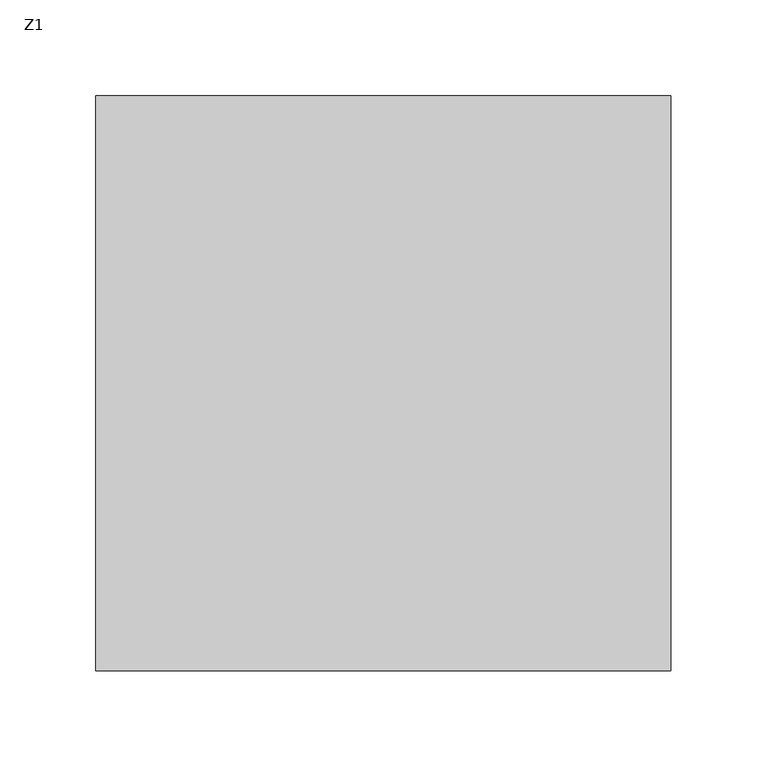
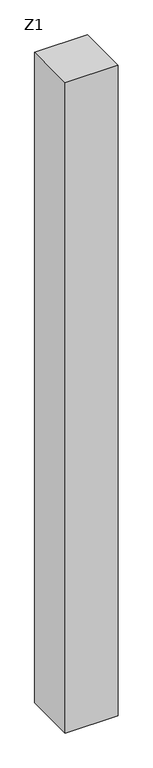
"""IFC4 building model written with IfcOpenShell, lengths in millimetres: column geometry, 混凝土 - 矩形 - 柱 : Z1."""

import ifcopenshell
import ifcopenshell.guid

model = None  # the IFC model being written
_history = None  # IfcOwnerHistory: only IFC2X3 demands one
_inside = {}  # id of a spatial element -> (the spatial element, [elements in it])
_under = {}  # id of a project, library or spatial element -> (it, [spatial elements below it])
_declared = {}  # id of a project -> (the project, [libraries it declares])
_typed = {}  # id of a type object -> (the type object, [elements of that type])
_made_of = {}  # id of a material, layer set ... -> (it, [elements and type objects made of it])


def new_model(schema):
    """Start an empty IFC model of exactly this schema.

    Asked for "IFC4X3", IfcOpenShell would pick the latest addendum, in which some entities
    have other attributes; the version numbers below select the first issue.
    IFC2X3 requires an IfcOwnerHistory on every rooted entity: one is made here for all.
    """
    global model, _history
    if schema == "IFC4X3":
        model = ifcopenshell.file(schema_version=(4, 3, 0, 0))
    else:
        model = ifcopenshell.file(schema=schema)
    _inside.clear()
    _under.clear()
    _declared.clear()
    _typed.clear()
    _made_of.clear()
    _history = None
    if model.schema == "IFC2X3":
        org = make("IfcOrganization", Name="unknown")
        user = make(
            "IfcPersonAndOrganization",
            ThePerson=make("IfcPerson", FamilyName="unknown"),
            TheOrganization=org,
        )
        app = make(
            "IfcApplication",
            ApplicationDeveloper=org,
            Version="unknown",
            ApplicationFullName="unknown",
            ApplicationIdentifier="unknown",
        )
        _history = make(
            "IfcOwnerHistory",
            OwningUser=user,
            OwningApplication=app,
            ChangeAction="ADDED",
            CreationDate=0,
        )
    return model


def make(cls, **values):
    """One entity of the class cls with the attributes given. An attribute that is None is left unset."""
    return model.create_entity(
        cls, **{name: value for name, value in values.items() if value is not None}
    )


def rooted(cls, **values):
    """An entity with a GlobalId (a new one), such as an element, a storey or a relation."""
    return make(cls, GlobalId=ifcopenshell.guid.new(), OwnerHistory=_history, **values)


def si_unit(unit_type, name, prefix=None):
    """IfcSIUnit, for example si_unit("LENGTHUNIT", "METRE", prefix="MILLI")."""
    return make("IfcSIUnit", UnitType=unit_type, Prefix=prefix, Name=name)


def assignment(units):
    """IfcUnitAssignment: the units of a project."""
    return None if units is None else make("IfcUnitAssignment", Units=units)


def point(xyz):
    """IfcCartesianPoint."""
    return None if xyz is None else make("IfcCartesianPoint", Coordinates=xyz)


def direction(xyz):
    """IfcDirection."""
    return None if xyz is None else make("IfcDirection", DirectionRatios=xyz)


def frame(location, z_axis=None, x_axis=None):
    """IfcAxis2Placement3D, a coordinate frame: its origin and axes. An axis left out is left unset."""
    return make(
        "IfcAxis2Placement3D",
        Location=point(location),
        Axis=direction(z_axis),
        RefDirection=direction(x_axis),
    )


def origin():
    """The frame at (0, 0, 0) with its axes left unset."""
    return frame((0.0, 0.0, 0.0))


def origin_with_axes():
    """The frame at (0, 0, 0) with the z axis (0, 0, 1) and the x axis (1, 0, 0) written out."""
    return frame((0.0, 0.0, 0.0), z_axis=(0.0, 0.0, 1.0), x_axis=(1.0, 0.0, 0.0))


def place(relative_to, where):
    """IfcLocalPlacement: puts the frame where relative to a parent placement (None: the world)."""
    return make(
        "IfcLocalPlacement", PlacementRelTo=relative_to, RelativePlacement=where
    )


def context(
    kind, dimensions, precision=None, world=None, true_north=None, identifier=None
):
    """IfcGeometricRepresentationContext, for example the 3D "Model" context."""
    return make(
        "IfcGeometricRepresentationContext",
        ContextIdentifier=identifier,
        ContextType=kind,
        CoordinateSpaceDimension=dimensions,
        Precision=precision,
        WorldCoordinateSystem=world,
        TrueNorth=true_north,
    )


def project(units=None, contexts=None):
    """IfcProject with its units and contexts."""
    return rooted(
        "IfcProject",
        Name="project",
        RepresentationContexts=contexts,
        UnitsInContext=assignment(units),
    )


def spatial(cls, under=None, at=None, **own):
    """A site, building, storey or space (cls), placed at a placement, below another one or the project."""
    s = rooted(cls, ObjectPlacement=at, **own)
    if under is not None:
        _under.setdefault(under.id(), (under, []))[1].append(s)
    return s


def polyline(points):
    """IfcPolyline through the points."""
    return make("IfcPolyline", Points=[point(p) for p in points])


def outline(outer, holes=None, kind="AREA"):
    """IfcArbitraryClosedProfileDef: a profile drawn as a closed curve; with holes, ...WithVoids."""
    if holes is None:
        return make("IfcArbitraryClosedProfileDef", ProfileType=kind, OuterCurve=outer)
    return make(
        "IfcArbitraryProfileDefWithVoids",
        ProfileType=kind,
        OuterCurve=outer,
        InnerCurves=holes,
    )


def extrude(swept, where, along, depth):
    """IfcExtrudedAreaSolid: the profile swept, set in the frame where, extruded along a direction by depth."""
    return make(
        "IfcExtrudedAreaSolid",
        SweptArea=swept,
        Position=where,
        ExtrudedDirection=direction(along),
        Depth=depth,
    )


def shape(context_of_items, identifier, shape_type, items):
    """IfcShapeRepresentation: the items that make up one representation, for example the "Body"."""
    return make(
        "IfcShapeRepresentation",
        ContextOfItems=context_of_items,
        RepresentationIdentifier=identifier,
        RepresentationType=shape_type,
        Items=items,
    )


def source(mapping_origin, context_of_items, identifier, shape_type, items):
    """IfcRepresentationMap: a shape defined once, which mapped items show again and again."""
    return make(
        "IfcRepresentationMap",
        MappingOrigin=mapping_origin,
        MappedRepresentation=shape(context_of_items, identifier, shape_type, items),
    )


def transform(
    local_origin,
    x_axis=None,
    y_axis=None,
    z_axis=None,
    scale=None,
    scale2=None,
    scale3=None,
    uniform=True,
):
    """IfcCartesianTransformationOperator3D, or its non-uniform kind. x_axis, y_axis, z_axis: its Axis1, 2, 3."""
    if uniform:
        return make(
            "IfcCartesianTransformationOperator3D",
            Axis1=direction(x_axis),
            Axis2=direction(y_axis),
            LocalOrigin=point(local_origin),
            Scale=scale,
            Axis3=direction(z_axis),
        )
    return make(
        "IfcCartesianTransformationOperator3DnonUniform",
        Axis1=direction(x_axis),
        Axis2=direction(y_axis),
        LocalOrigin=point(local_origin),
        Scale=scale,
        Axis3=direction(z_axis),
        Scale2=scale2,
        Scale3=scale3,
    )


def mapped(mapping_source, mapping_target):
    """IfcMappedItem: shows the shape of a source again, moved by a transform."""
    return make(
        "IfcMappedItem", MappingSource=mapping_source, MappingTarget=mapping_target
    )


def made_of(thing, what):
    """Note that an element or type object is made of a material, layer set ...; save() writes the relation."""
    if what is not None:
        _made_of.setdefault(what.id(), (what, []))[1].append(thing)
    return thing


def element(
    cls,
    number,
    at=None,
    inside=None,
    cuts=None,
    type_object=None,
    material=None,
    context=None,
    identifier="Body",
    shape_type=None,
    held_by="IfcProductDefinitionShape",
    body=None,
    shapes=None,
    **own,
):
    """One element of the class cls, such as IfcWall. Its Tag is "e" and its number.

    at: its placement. inside: the storey or other place that contains it. cuts: it is an
    opening in that element (IfcRelVoidsElement). A single representation is given by context,
    identifier, shape_type and body (its items); several are given by shapes. held_by: the class
    of the entity that holds the representations. save() writes the other relations.
    """
    e = rooted(cls, Tag="e%d" % number, ObjectPlacement=at, **own)
    if body is not None:
        shapes = [shape(context, identifier, shape_type, body)]
    if shapes is not None:
        e.Representation = make(held_by, Representations=shapes)
    if inside is not None:
        _inside.setdefault(inside.id(), (inside, []))[1].append(e)
    if cuts is not None:
        rooted(
            "IfcRelVoidsElement", RelatingBuildingElement=cuts, RelatedOpeningElement=e
        )
    if type_object is not None:
        _typed.setdefault(type_object.id(), (type_object, []))[1].append(e)
    return made_of(e, material)


def aggregate(whole, parts):
    """IfcRelAggregates: a whole, such as a stair, and the parts it consists of."""
    return rooted("IfcRelAggregates", RelatingObject=whole, RelatedObjects=parts)


def save(model, path):
    """Write the relations noted so far, then the file.

    IfcRelAggregates (storeys below a building ...), IfcRelContainedInSpatialStructure (elements
    in a storey), IfcRelDefinesByType, IfcRelAssociatesMaterial and IfcRelDeclares: one each for
    every whole, place, type object, material and project.
    """
    for whole, parts in _under.values():
        aggregate(whole, parts)
    for where, things in _inside.values():
        rooted(
            "IfcRelContainedInSpatialStructure",
            RelatedElements=things,
            RelatingStructure=where,
        )
    for kind, things in _typed.values():
        rooted("IfcRelDefinesByType", RelatedObjects=things, RelatingType=kind)
    for what, things in _made_of.values():
        rooted("IfcRelAssociatesMaterial", RelatedObjects=things, RelatingMaterial=what)
    for by, libraries in _declared.values():
        rooted("IfcRelDeclares", RelatingContext=by, RelatedDefinitions=libraries)
    model.write(path)


def z1_a591984b(model_context):
    return source(origin(), model_context, "Body", "SweptSolid", [
        extrude(outline(polyline([(150.0, 150.0), (150.0, -150.0), (-150.0, -150.0), (-150.0, 150.0), (150.0, 150.0)])), origin_with_axes(), (0.0, 0.0, 1.0), 3900.0),
    ])


if __name__ == "__main__":
    model = new_model("IFC4")
    model_context = context("Model", 3, world=origin())
    ifc_project = project(units=[si_unit("LENGTHUNIT", "METRE", prefix="MILLI")], contexts=[model_context])
    site = spatial("IfcSite", under=ifc_project)
    building = spatial("IfcBuilding", under=site)
    placement = place(None, origin())
    z1_shape = z1_a591984b(model_context)
    element("IfcColumn", 1, ObjectType="混凝土 - 矩形 - 柱 : Z1", at=placement, inside=building, context=model_context, shape_type="MappedRepresentation", body=[
        mapped(z1_shape, transform((0.0, 0.0, 0.0), x_axis=(1.0, 0.0, 0.0), y_axis=(0.0, 1.0, 0.0), z_axis=(0.0, 0.0, 1.0))),
    ])
    save(model, "model.ifc")
